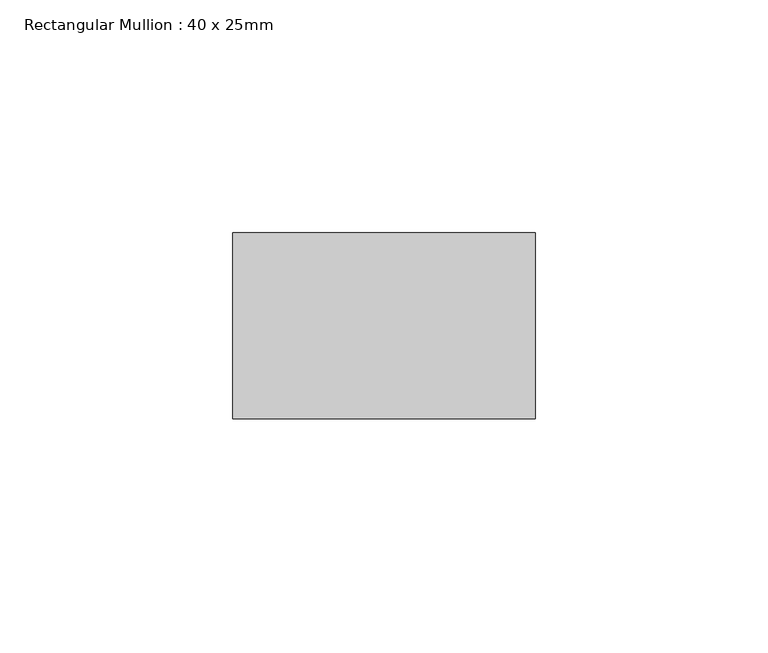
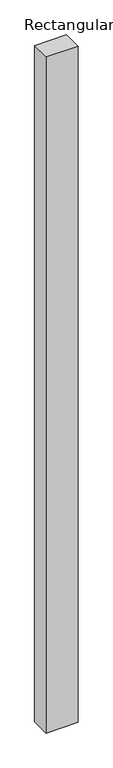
"""IFC4 building model written with IfcOpenShell, lengths in millimetres: member geometry, Rectangular Mullion : 40 x 25mm."""

import ifcopenshell
import ifcopenshell.guid

model = None  # the IFC model being written
_history = None  # IfcOwnerHistory: only IFC2X3 demands one
_inside = {}  # id of a spatial element -> (the spatial element, [elements in it])
_under = {}  # id of a project, library or spatial element -> (it, [spatial elements below it])
_declared = {}  # id of a project -> (the project, [libraries it declares])
_typed = {}  # id of a type object -> (the type object, [elements of that type])
_made_of = {}  # id of a material, layer set ... -> (it, [elements and type objects made of it])


def new_model(schema):
    """Start an empty IFC model of exactly this schema.

    Asked for "IFC4X3", IfcOpenShell would pick the latest addendum, in which some entities
    have other attributes; the version numbers below select the first issue.
    IFC2X3 requires an IfcOwnerHistory on every rooted entity: one is made here for all.
    """
    global model, _history
    if schema == "IFC4X3":
        model = ifcopenshell.file(schema_version=(4, 3, 0, 0))
    else:
        model = ifcopenshell.file(schema=schema)
    _inside.clear()
    _under.clear()
    _declared.clear()
    _typed.clear()
    _made_of.clear()
    _history = None
    if model.schema == "IFC2X3":
        org = make("IfcOrganization", Name="unknown")
        user = make(
            "IfcPersonAndOrganization",
            ThePerson=make("IfcPerson", FamilyName="unknown"),
            TheOrganization=org,
        )
        app = make(
            "IfcApplication",
            ApplicationDeveloper=org,
            Version="unknown",
            ApplicationFullName="unknown",
            ApplicationIdentifier="unknown",
        )
        _history = make(
            "IfcOwnerHistory",
            OwningUser=user,
            OwningApplication=app,
            ChangeAction="ADDED",
            CreationDate=0,
        )
    return model


def make(cls, **values):
    """One entity of the class cls with the attributes given. An attribute that is None is left unset."""
    return model.create_entity(
        cls, **{name: value for name, value in values.items() if value is not None}
    )


def rooted(cls, **values):
    """An entity with a GlobalId (a new one), such as an element, a storey or a relation."""
    return make(cls, GlobalId=ifcopenshell.guid.new(), OwnerHistory=_history, **values)


def si_unit(unit_type, name, prefix=None):
    """IfcSIUnit, for example si_unit("LENGTHUNIT", "METRE", prefix="MILLI")."""
    return make("IfcSIUnit", UnitType=unit_type, Prefix=prefix, Name=name)


def assignment(units):
    """IfcUnitAssignment: the units of a project."""
    return None if units is None else make("IfcUnitAssignment", Units=units)


def point(xyz):
    """IfcCartesianPoint."""
    return None if xyz is None else make("IfcCartesianPoint", Coordinates=xyz)


def direction(xyz):
    """IfcDirection."""
    return None if xyz is None else make("IfcDirection", DirectionRatios=xyz)


def frame(location, z_axis=None, x_axis=None):
    """IfcAxis2Placement3D, a coordinate frame: its origin and axes. An axis left out is left unset."""
    return make(
        "IfcAxis2Placement3D",
        Location=point(location),
        Axis=direction(z_axis),
        RefDirection=direction(x_axis),
    )


def origin():
    """The frame at (0, 0, 0) with its axes left unset."""
    return frame((0.0, 0.0, 0.0))


def place(relative_to, where):
    """IfcLocalPlacement: puts the frame where relative to a parent placement (None: the world)."""
    return make(
        "IfcLocalPlacement", PlacementRelTo=relative_to, RelativePlacement=where
    )


def context(
    kind, dimensions, precision=None, world=None, true_north=None, identifier=None
):
    """IfcGeometricRepresentationContext, for example the 3D "Model" context."""
    return make(
        "IfcGeometricRepresentationContext",
        ContextIdentifier=identifier,
        ContextType=kind,
        CoordinateSpaceDimension=dimensions,
        Precision=precision,
        WorldCoordinateSystem=world,
        TrueNorth=true_north,
    )


def project(units=None, contexts=None):
    """IfcProject with its units and contexts."""
    return rooted(
        "IfcProject",
        Name="project",
        RepresentationContexts=contexts,
        UnitsInContext=assignment(units),
    )


def spatial(cls, under=None, at=None, **own):
    """A site, building, storey or space (cls), placed at a placement, below another one or the project."""
    s = rooted(cls, ObjectPlacement=at, **own)
    if under is not None:
        _under.setdefault(under.id(), (under, []))[1].append(s)
    return s


def polyline(points):
    """IfcPolyline through the points."""
    return make("IfcPolyline", Points=[point(p) for p in points])


def outline(outer, holes=None, kind="AREA"):
    """IfcArbitraryClosedProfileDef: a profile drawn as a closed curve; with holes, ...WithVoids."""
    if holes is None:
        return make("IfcArbitraryClosedProfileDef", ProfileType=kind, OuterCurve=outer)
    return make(
        "IfcArbitraryProfileDefWithVoids",
        ProfileType=kind,
        OuterCurve=outer,
        InnerCurves=holes,
    )


def extrude(swept, where, along, depth):
    """IfcExtrudedAreaSolid: the profile swept, set in the frame where, extruded along a direction by depth."""
    return make(
        "IfcExtrudedAreaSolid",
        SweptArea=swept,
        Position=where,
        ExtrudedDirection=direction(along),
        Depth=depth,
    )


def shape(context_of_items, identifier, shape_type, items):
    """IfcShapeRepresentation: the items that make up one representation, for example the "Body"."""
    return make(
        "IfcShapeRepresentation",
        ContextOfItems=context_of_items,
        RepresentationIdentifier=identifier,
        RepresentationType=shape_type,
        Items=items,
    )


def source(mapping_origin, context_of_items, identifier, shape_type, items):
    """IfcRepresentationMap: a shape defined once, which mapped items show again and again."""
    return make(
        "IfcRepresentationMap",
        MappingOrigin=mapping_origin,
        MappedRepresentation=shape(context_of_items, identifier, shape_type, items),
    )


def transform(
    local_origin,
    x_axis=None,
    y_axis=None,
    z_axis=None,
    scale=None,
    scale2=None,
    scale3=None,
    uniform=True,
):
    """IfcCartesianTransformationOperator3D, or its non-uniform kind. x_axis, y_axis, z_axis: its Axis1, 2, 3."""
    if uniform:
        return make(
            "IfcCartesianTransformationOperator3D",
            Axis1=direction(x_axis),
            Axis2=direction(y_axis),
            LocalOrigin=point(local_origin),
            Scale=scale,
            Axis3=direction(z_axis),
        )
    return make(
        "IfcCartesianTransformationOperator3DnonUniform",
        Axis1=direction(x_axis),
        Axis2=direction(y_axis),
        LocalOrigin=point(local_origin),
        Scale=scale,
        Axis3=direction(z_axis),
        Scale2=scale2,
        Scale3=scale3,
    )


def mapped(mapping_source, mapping_target):
    """IfcMappedItem: shows the shape of a source again, moved by a transform."""
    return make(
        "IfcMappedItem", MappingSource=mapping_source, MappingTarget=mapping_target
    )


def made_of(thing, what):
    """Note that an element or type object is made of a material, layer set ...; save() writes the relation."""
    if what is not None:
        _made_of.setdefault(what.id(), (what, []))[1].append(thing)
    return thing


def element(
    cls,
    number,
    at=None,
    inside=None,
    cuts=None,
    type_object=None,
    material=None,
    context=None,
    identifier="Body",
    shape_type=None,
    held_by="IfcProductDefinitionShape",
    body=None,
    shapes=None,
    **own,
):
    """One element of the class cls, such as IfcWall. Its Tag is "e" and its number.

    at: its placement. inside: the storey or other place that contains it. cuts: it is an
    opening in that element (IfcRelVoidsElement). A single representation is given by context,
    identifier, shape_type and body (its items); several are given by shapes. held_by: the class
    of the entity that holds the representations. save() writes the other relations.
    """
    e = rooted(cls, Tag="e%d" % number, ObjectPlacement=at, **own)
    if body is not None:
        shapes = [shape(context, identifier, shape_type, body)]
    if shapes is not None:
        e.Representation = make(held_by, Representations=shapes)
    if inside is not None:
        _inside.setdefault(inside.id(), (inside, []))[1].append(e)
    if cuts is not None:
        rooted(
            "IfcRelVoidsElement", RelatingBuildingElement=cuts, RelatedOpeningElement=e
        )
    if type_object is not None:
        _typed.setdefault(type_object.id(), (type_object, []))[1].append(e)
    return made_of(e, material)


def aggregate(whole, parts):
    """IfcRelAggregates: a whole, such as a stair, and the parts it consists of."""
    return rooted("IfcRelAggregates", RelatingObject=whole, RelatedObjects=parts)


def save(model, path):
    """Write the relations noted so far, then the file.

    IfcRelAggregates (storeys below a building ...), IfcRelContainedInSpatialStructure (elements
    in a storey), IfcRelDefinesByType, IfcRelAssociatesMaterial and IfcRelDeclares: one each for
    every whole, place, type object, material and project.
    """
    for whole, parts in _under.values():
        aggregate(whole, parts)
    for where, things in _inside.values():
        rooted(
            "IfcRelContainedInSpatialStructure",
            RelatedElements=things,
            RelatingStructure=where,
        )
    for kind, things in _typed.values():
        rooted("IfcRelDefinesByType", RelatedObjects=things, RelatingType=kind)
    for what, things in _made_of.values():
        rooted("IfcRelAssociatesMaterial", RelatedObjects=things, RelatingMaterial=what)
    for by, libraries in _declared.values():
        rooted("IfcRelDeclares", RelatingContext=by, RelatedDefinitions=libraries)
    model.write(path)


def rectangular_mullion_40_x_25mm_23fac15a(model_context):
    return source(origin(), model_context, "Body", "SweptSolid", [
        extrude(outline(polyline([(0.0, -20.0), (0.0, -60.0), (-65.0, -60.0), (-65.0, -20.0), (0.0, -20.0)])), frame((0.0, 0.0, -1452.6023033), z_axis=(0.0, 0.0, 1.0), x_axis=(1.0, 0.0, 0.0)), (0.0, 0.0, 1.0), 1452.6023033),
    ])


if __name__ == "__main__":
    model = new_model("IFC4")
    model_context = context("Model", 3, world=origin())
    ifc_project = project(units=[si_unit("LENGTHUNIT", "METRE", prefix="MILLI")], contexts=[model_context])
    site = spatial("IfcSite", under=ifc_project)
    building = spatial("IfcBuilding", under=site)
    placement = place(None, origin())
    rectangular_mullion_40_x_25mm_shape = rectangular_mullion_40_x_25mm_23fac15a(model_context)
    element("IfcMember", 1, ObjectType="Rectangular Mullion : 40 x 25mm", at=placement, inside=building, context=model_context, shape_type="MappedRepresentation", body=[
        mapped(rectangular_mullion_40_x_25mm_shape, transform((0.0, 0.0, 0.0), x_axis=(1.0, 0.0, 0.0), y_axis=(0.0, 1.0, 0.0), z_axis=(0.0, 0.0, 1.0))),
    ])
    save(model, "model.ifc")
